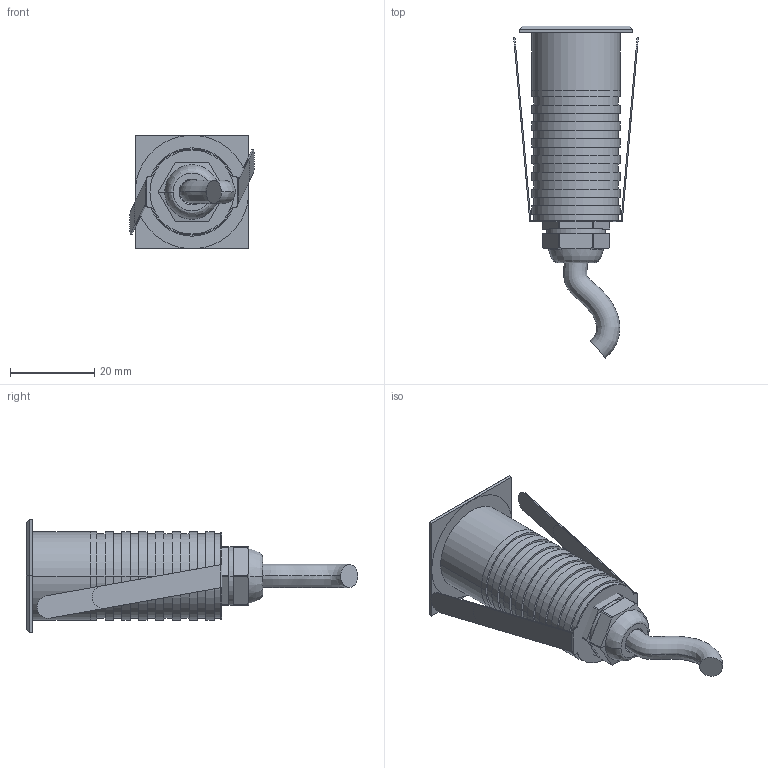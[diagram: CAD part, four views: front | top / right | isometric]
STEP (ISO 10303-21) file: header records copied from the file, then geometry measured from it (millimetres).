
FILE_DESCRIPTION((''),'2;1');
FILE_NAME('B2BP0156_ASM','2024-11-21T',('Administrator'),(''),'CREO PARAMETRIC BY PTC INC, 2015200','CREO PARAMETRIC BY PTC INC, 2015200','');
FILE_SCHEMA(('CONFIG_CONTROL_DESIGN'));
Length unit declared in the file: millimetre
Products named in the file (17): 2BN_DT_JIA_GAO_BAN_D20_20_2; PG7_CU_23_2; 2BN_TOU_JING_YA_QUAN_8_2; 2M_LJB_15_2; 2M_KH_NO4_11_2; 2M_FSQ_D19_3_2; 2YC_LJB_3_2; 2BN_DT_ZJ_B15_ASM_27_ASM_2_ASM; B15_TOU_JING_10_2; 2BN_MG_ZJ_B15_ASM_15_ASM_2_ASM; 2BN0157_B15_ASM_55_ASM_2_ASM; 2019-5-15KAHUANG_2; 2BMR_MG_D27_2_2; 2BN_2BM_ALL_ASM_5_ASM_2_ASM; 2BMS_MG_D27_16; 2M_PC_D19_9_2; B2BP0156_ASM
Assembly tree (16 placements, depth 5):
  B2BP0156_ASM
    2BN_2BM_ALL_ASM_5_ASM_2_ASM
      2BN0157_B15_ASM_55_ASM_2_ASM
        2BN_DT_ZJ_B15_ASM_27_ASM_2_ASM
          2BN_DT_JIA_GAO_BAN_D20_20_2
          PG7_CU_23_2
          2BN_TOU_JING_YA_QUAN_8_2
          2M_LJB_15_2
          2M_KH_NO4_11_2
          2M_FSQ_D19_3_2
          2YC_LJB_3_2
        B15_TOU_JING_10_2
        2BN_MG_ZJ_B15_ASM_15_ASM_2_ASM
      2019-5-15KAHUANG_2
      2BMR_MG_D27_2_2
    2BMS_MG_D27_16
    2M_PC_D19_9_2
Bounding box: 29.69 x 79 x 27 mm (x, y, z)
Volume: 17619.8 mm3; surface area: 18007.6 mm2
Topology: 12 solids, 12 shells, 372 faces, 958 edges, 642 vertices
Faces by surface type: cylinder 159, plane 154, bspline 43, cone 11, revolution 2, sphere 2, extrusion 1
Entity records: 20141 total; most frequent: CARTESIAN_POINT 10786, ORIENTED_EDGE 1912, DIRECTION 1863, EDGE_CURVE 956, AXIS2_PLACEMENT_3D 731, VERTEX_POINT 642, EDGE_LOOP 422, VECTOR 399
